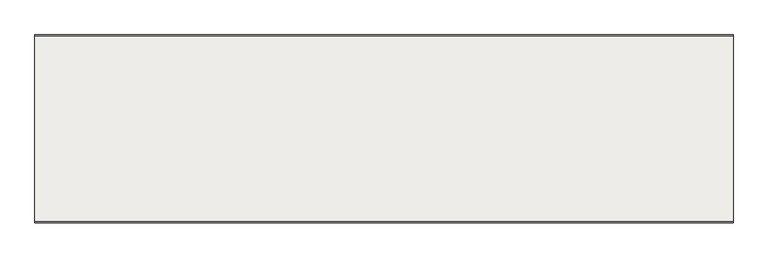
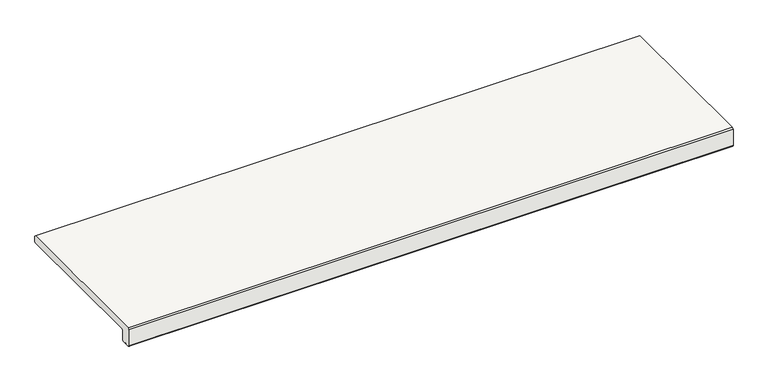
"""IFC4 building model written with IfcOpenShell, lengths in millimetres: slab geometry, ROSA GRES_L98 : Pieza L98_Serena_Ocra_Anti-Slip."""

from ifc_helpers import new_model, si_unit, point, frame, frame_2d, origin, place, context, project, spatial, polyline, circle_curve, trimmed, segment, composite_curve, outline, extrude, source, transform, mapped, element, save


def slab_fc769800(model_context):
    return source(origin(), model_context, "Body", "SweptSolid", [
        extrude(outline(composite_curve([segment(polyline([(17.5526771, -23.0), (11.8841218, -23.0)]), True, "CONTINUOUS"), segment(trimmed(circle_curve(frame_2d((10.0167467, -23.0)), 1.8673751), [point((11.8841218, -23.0))], [point((8.1493716, -23.0))], True, "CARTESIAN"), True, "CONTINUOUS"), segment(polyline([(8.1493716, -23.0), (2.5, -23.0)]), True, "CONTINUOUS"), segment(trimmed(circle_curve(frame_2d((2.5, -20.5)), 2.5), [point((2.5, -23.0))], [point((0.0, -20.5))], False, "CARTESIAN"), True, "CONTINUOUS"), segment(polyline([(0.0, -20.5), (0.0, 12.5), (2.5, 15.0), (314.5, 15.0), (317.0, 12.5), (317.0, 2.5)]), True, "CONTINUOUS"), segment(trimmed(circle_curve(frame_2d((314.5, 2.5)), 2.5), [point((317.0, 2.5))], [point((314.5, 0.0))], False, "CARTESIAN"), True, "CONTINUOUS"), segment(polyline([(314.5, 0.0), (22.471267, 0.0)]), True, "CONTINUOUS"), segment(trimmed(circle_curve(frame_2d((22.471267, -2.5191553)), 2.5191553), [point((22.471267, 0.0))], [point((19.9521117, -2.5191553))], True, "CARTESIAN"), True, "CONTINUOUS"), segment(polyline([(19.9521117, -2.5191553), (19.9521117, -20.6005654)]), True, "CONTINUOUS"), segment(trimmed(circle_curve(frame_2d((17.5526771, -20.6005654)), 2.3994346), [point((19.9521117, -20.6005654))], [point((17.5526771, -23.0))], False, "CARTESIAN"), True, "CONTINUOUS")], self_intersect=False)), frame((0.0, 0.0, 0.0), z_axis=(1.0, 0.0, 0.0), x_axis=(0.0, 1.0, 0.0)), (0.0, 0.0, 1.0), 1177.4205007),
    ])


if __name__ == "__main__":
    model = new_model("IFC4")
    model_context = context("Model", 3, world=origin())
    ifc_project = project(units=[si_unit("LENGTHUNIT", "METRE", prefix="MILLI")], contexts=[model_context])
    site = spatial("IfcSite", under=ifc_project)
    building = spatial("IfcBuilding", under=site)
    placement = place(None, origin())
    slab_shape = slab_fc769800(model_context)
    element("IfcSlab", 1, ObjectType="ROSA GRES_L98 : Pieza L98_Serena_Ocra_Anti-Slip", at=placement, inside=building, context=model_context, shape_type="MappedRepresentation", body=[
        mapped(slab_shape, transform((0.0, 0.0, 0.0), x_axis=(1.0, 0.0, 0.0), y_axis=(0.0, 1.0, 0.0), z_axis=(0.0, 0.0, 1.0))),
    ])
    save(model, "model.ifc")
